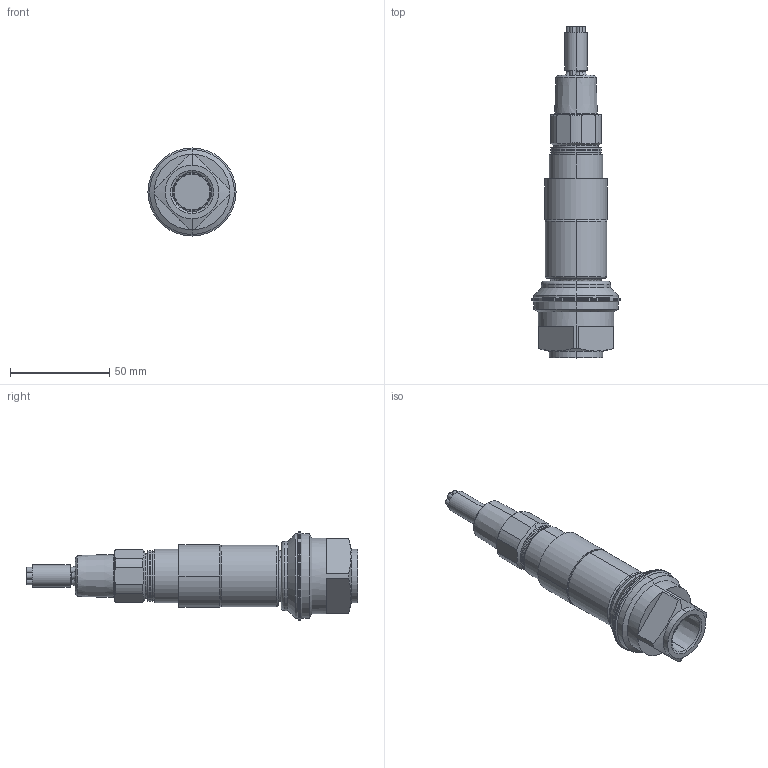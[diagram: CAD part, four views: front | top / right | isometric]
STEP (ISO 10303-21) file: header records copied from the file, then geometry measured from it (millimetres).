
FILE_DESCRIPTION (( 'STEP AP214' ), '1' );
FILE_NAME ('12SXXN9_A_C.STEP', '2025-04-02T11:45:09', ( '' ), ( '' ), 'SwSTEP 2.0', 'SolidWorks 2023', '' );
FILE_SCHEMA (( 'AUTOMOTIVE_DESIGN' ));
Length unit declared in the file: inch
Products named in the file (1): 12SXXN9_A_C
Bounding box: 44.45 x 167.44 x 44.45 mm (x, y, z)
Surface area: 25776.9 mm2 (no closed solid volume)
Topology: 0 solids, 12 shells, 155 faces, 370 edges, 236 vertices
Faces by surface type: cylinder 57, plane 41, cone 33, torus 18, bspline 6
Entity records: 4961 total; most frequent: CARTESIAN_POINT 1303, DIRECTION 834, ORIENTED_EDGE 702, EDGE_CURVE 370, AXIS2_PLACEMENT_3D 363, VERTEX_POINT 236, CIRCLE 213, EDGE_LOOP 173
